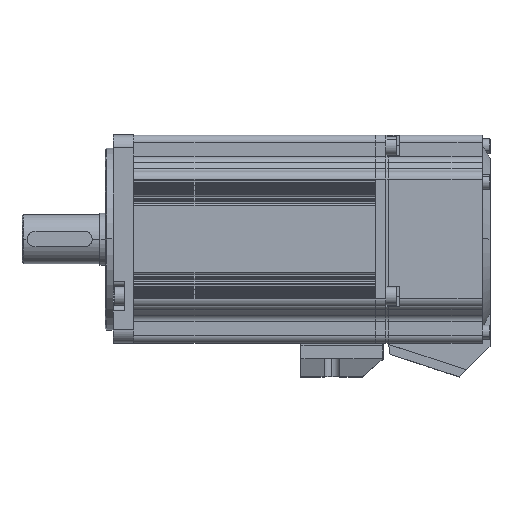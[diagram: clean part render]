
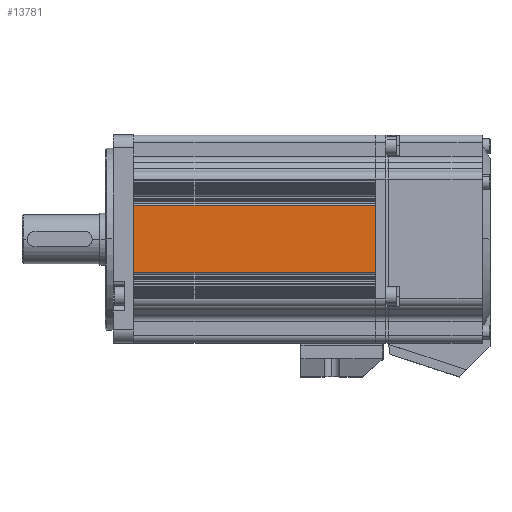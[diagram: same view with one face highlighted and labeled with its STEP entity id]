
A CAD part, top view. The second image highlights one B-rep face of the part: STEP entity #13781.
In plain terms, the highlighted planar face has unit normal (0, 0, 1).
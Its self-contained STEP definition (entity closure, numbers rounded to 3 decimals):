
#14 = CARTESIAN_POINT ( 'NONE',  ( 43., 26., 40. ) ) ;
#1646 = DIRECTION ( 'NONE',  ( 1., 0., 0. ) ) ;
#2994 = CARTESIAN_POINT ( 'NONE',  ( 43., 13.029, 40. ) ) ;
#3209 = EDGE_CURVE ( 'NONE', #18942, #11449, #16362, .T. ) ;
#3674 = CARTESIAN_POINT ( 'NONE',  ( 43., 13.029, 40. ) ) ;
#3859 = ORIENTED_EDGE ( 'NONE', *, *, #4296, .T. ) ;
#4296 = EDGE_CURVE ( 'NONE', #11449, #11181, #20471, .T. ) ;
#5025 = EDGE_LOOP ( 'NONE', ( #13506, #19779, #3859, #14566 ) ) ;
#5092 = EDGE_CURVE ( 'NONE', #18942, #18414, #7295, .T. ) ;
#5439 = AXIS2_PLACEMENT_3D ( 'NONE', #14, #18197, #19885 ) ;
#6013 = CARTESIAN_POINT ( 'NONE',  ( 136., 13.029, 40. ) ) ;
#7295 = LINE ( 'NONE', #11856, #9832 ) ;
#8381 = CARTESIAN_POINT ( 'NONE',  ( 136., -13.029, 40. ) ) ;
#8558 = FACE_OUTER_BOUND ( 'NONE', #5025, .T. ) ;
#8635 = LINE ( 'NONE', #2994, #15289 ) ;
#9372 = VECTOR ( 'NONE', #16070, 1000. ) ;
#9832 = VECTOR ( 'NONE', #11643, 1000. ) ;
#10712 = VECTOR ( 'NONE', #1646, 1000. ) ;
#11181 = VERTEX_POINT ( 'NONE', #6013 ) ;
#11449 = VERTEX_POINT ( 'NONE', #8381 ) ;
#11643 = DIRECTION ( 'NONE',  ( 0., 1., 0. ) ) ;
#11856 = CARTESIAN_POINT ( 'NONE',  ( 43., 26., 40. ) ) ;
#13506 = ORIENTED_EDGE ( 'NONE', *, *, #5092, .F. ) ;
#13781 = ADVANCED_FACE ( 'NONE', ( #8558 ), #16526, .F. ) ;
#14551 = CARTESIAN_POINT ( 'NONE',  ( 43., -13.029, 40. ) ) ;
#14566 = ORIENTED_EDGE ( 'NONE', *, *, #21258, .T. ) ;
#15289 = VECTOR ( 'NONE', #17945, 1000. ) ;
#16070 = DIRECTION ( 'NONE',  ( 0., 1., 0. ) ) ;
#16362 = LINE ( 'NONE', #14551, #10712 ) ;
#16526 = PLANE ( 'NONE',  #5439 ) ;
#17945 = DIRECTION ( 'NONE',  ( -1., 0., 0. ) ) ;
#18197 = DIRECTION ( 'NONE',  ( 0., 0., -1. ) ) ;
#18414 = VERTEX_POINT ( 'NONE', #3674 ) ;
#18942 = VERTEX_POINT ( 'NONE', #20232 ) ;
#19190 = CARTESIAN_POINT ( 'NONE',  ( 136., 26., 40. ) ) ;
#19779 = ORIENTED_EDGE ( 'NONE', *, *, #3209, .T. ) ;
#19885 = DIRECTION ( 'NONE',  ( 1., 0., 0. ) ) ;
#20232 = CARTESIAN_POINT ( 'NONE',  ( 43., -13.029, 40. ) ) ;
#20471 = LINE ( 'NONE', #19190, #9372 ) ;
#21258 = EDGE_CURVE ( 'NONE', #11181, #18414, #8635, .T. ) ;
